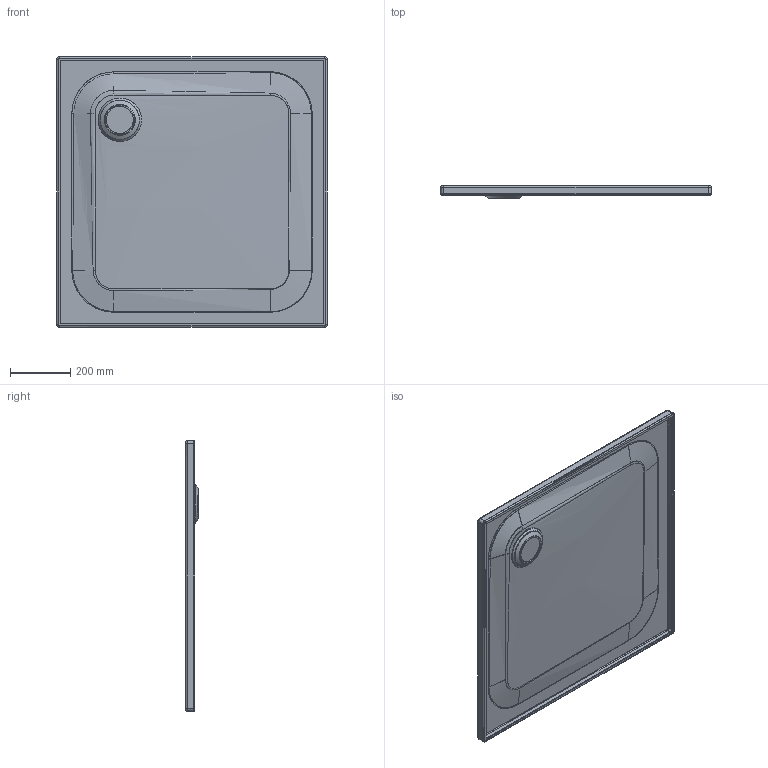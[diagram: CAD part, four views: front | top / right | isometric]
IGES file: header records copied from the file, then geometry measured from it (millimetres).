
Start section: Write IGES format                                    datakit 2008 (c)
Global section: file name: Unknown; native system: DATAKIT Converter; preprocessor: Unknown; author: Unknown; organization: Unknown; date: 950613.180003; units: millimetre
Bounding box: 899 x 41.1 x 899 mm (x, y, z)
Surface area: 1891084.9 mm2 (no closed solid volume)
Topology: 0 solids, 0 shells, 134 faces, 667 edges, 665 vertices
Faces by surface type: revolution 63, bspline 62, offset 9
